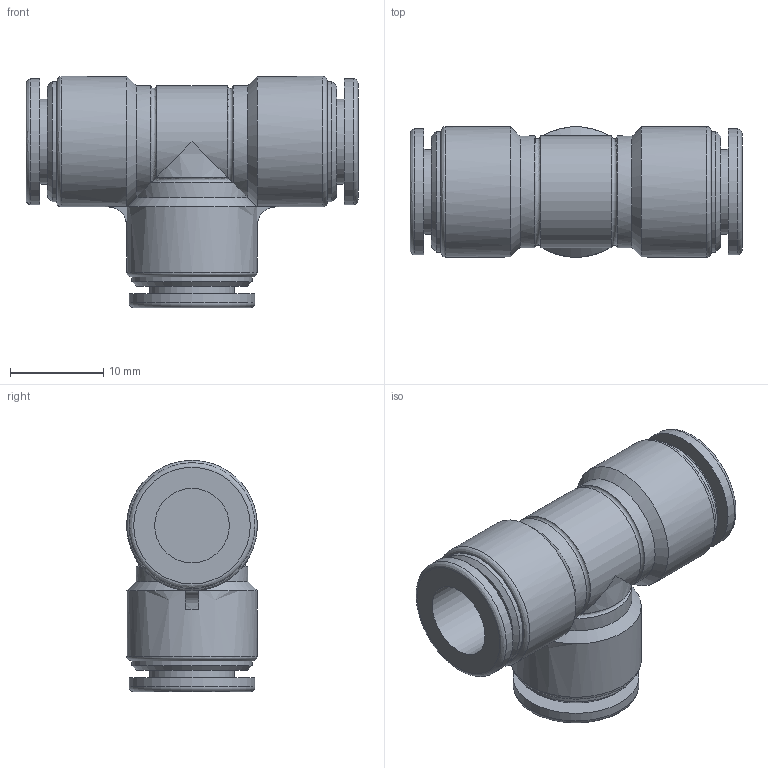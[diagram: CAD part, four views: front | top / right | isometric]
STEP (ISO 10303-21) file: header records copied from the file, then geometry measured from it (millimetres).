
FILE_DESCRIPTION((''),'2;1');
FILE_NAME('E:\2012年度板ﾃﾞｰﾀ\CHIYODA 3D-CAD DATA (Inventor 11)\TOUCH CONNECTOR FIVE (Inventor 11)\[17] UNION TEE\[03] FR8-00UT FR8-00UTW.stp','2012-03-21T16:23:09',('kazuhiro.t'),(''),'Autodesk Inventor 11','Autodesk Inventor 11','');
FILE_SCHEMA(('AUTOMOTIVE_DESIGN { 1 0 10303 214 1 1 1 1 }'));
Length unit declared in the file: millimetre
Products named in the file (1): [03] FR8-00UT FR8-00UTW
Bounding box: 35.6 x 14 x 24.8 mm (x, y, z)
Volume: 4412.3 mm3; surface area: 3822.5 mm2
Topology: 1 solids, 1 shells, 68 faces, 145 edges, 91 vertices
Faces by surface type: bspline 36, plane 14, cylinder 11, torus 4, cone 3
Full cylindrical faces by diameter (mm): 8 x1, 9.1 x2, 12.9 x2, 13.5 x2, 14 x1
Entity records: 2338 total; most frequent: CARTESIAN_POINT 1049, DIRECTION 242, ORIENTED_EDGE 240, EDGE_CURVE 120, AXIS2_PLACEMENT_3D 105, EDGE_LOOP 104, VERTEX_POINT 90, FACE_OUTER_BOUND 68
